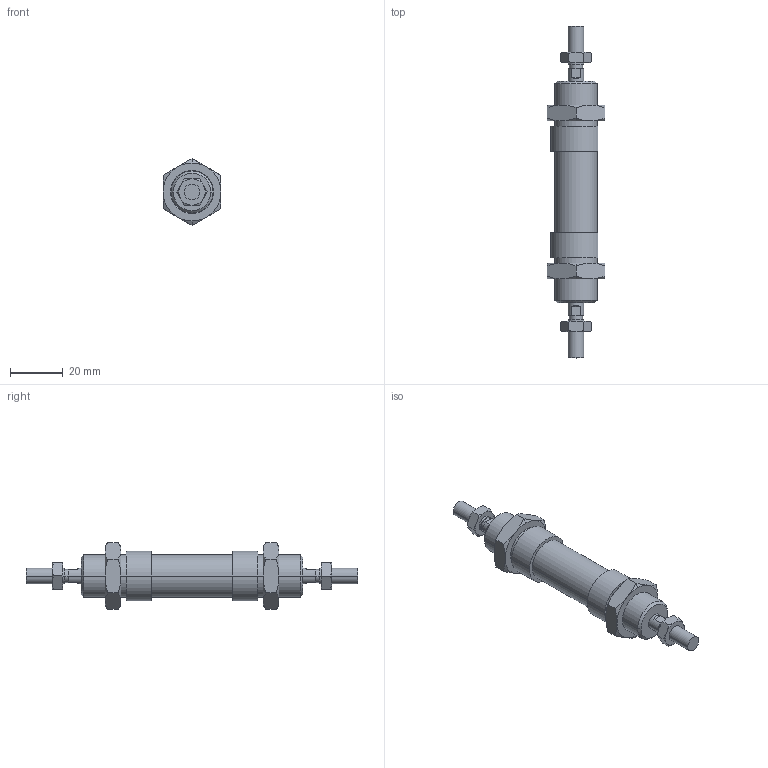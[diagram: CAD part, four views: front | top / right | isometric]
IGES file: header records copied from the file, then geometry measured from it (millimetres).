
Global section: file name: No Iges File Name specified; native system: AutoDesk Inventor R6.0; preprocessor: AutoDesk Inventor Iges Exporter R6.0; author: No Author specified; organization: No Organization specified; date: 20030403.072004; units: millimetre
Bounding box: 22 x 126 x 25.4 mm (x, y, z)
Volume: 22730.8 mm3; surface area: 12097.7 mm2
Topology: 6 solids, 6 shells, 180 faces, 388 edges, 228 vertices
Faces by surface type: cone 68, plane 56, bspline 30, cylinder 20, revolution 6
